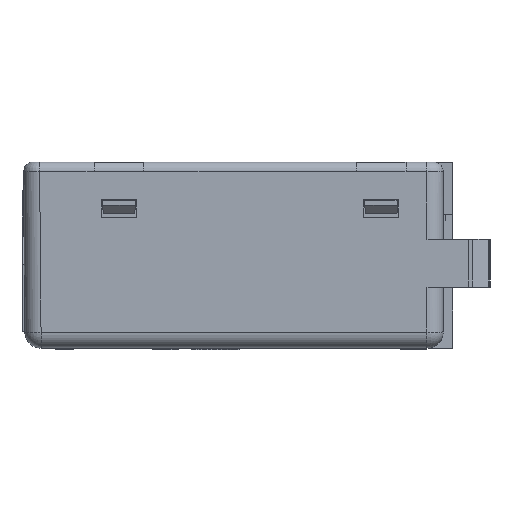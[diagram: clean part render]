
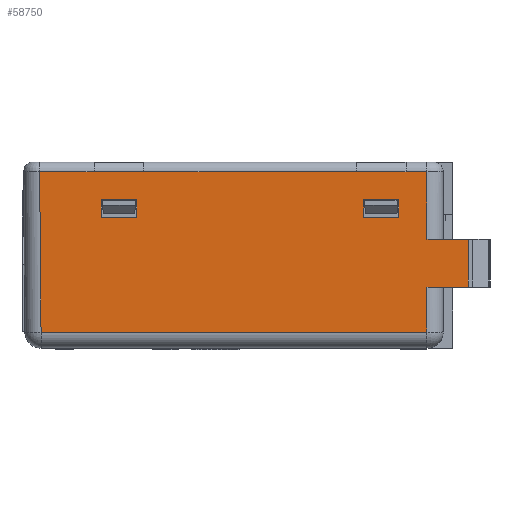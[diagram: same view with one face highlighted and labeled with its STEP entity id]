
A CAD part, left-side view. The second image highlights one B-rep face of the part: STEP entity #58750.
In plain terms, the highlighted planar face has unit normal (-1, 0, -0.009) as drawn and (1, 0, 0.009) by its records, which use the part's own axes.
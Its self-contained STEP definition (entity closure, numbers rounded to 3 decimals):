
#36370=CARTESIAN_POINT('',(23.974,14.835,
-9.35));
#36380=VERTEX_POINT('',#36370);
#36410=CARTESIAN_POINT('',(23.974,0.,
-9.35));
#36420=DIRECTION('',(0.,-1.,0.));
#36430=VECTOR('',#36420,1.);
#36440=LINE('',#36410,#36430);
#36450=CARTESIAN_POINT('',(23.974,11.135,
-9.35));
#36460=VERTEX_POINT('',#36450);
#36470=EDGE_CURVE('',#36380,#36460,#36440,.T.);
#45860=CARTESIAN_POINT('',(22.3,21.3,-12.3));
#45870=DIRECTION('',(0.,0.,-1.));
#45880=DIRECTION('',(-1.,0.,0.));
#45890=AXIS2_PLACEMENT_3D('',#45860,#45870,#45880);
#45900=CIRCLE('',#45890,1.7);
#49750=CARTESIAN_POINT('',(23.974,-12.65,-9.35));
#49760=VERTEX_POINT('',#49750);
#49790=CARTESIAN_POINT('',(23.974,0.,
-9.35));
#49800=DIRECTION('',(0.,-1.,0.));
#49810=VECTOR('',#49800,1.);
#49820=LINE('',#49790,#49810);
#49830=CARTESIAN_POINT('',(23.974,-16.35,-9.35));
#49840=VERTEX_POINT('',#49830);
#49850=EDGE_CURVE('',#49760,#49840,#49820,.T.);
#55730=CARTESIAN_POINT('',(24.,-17.1,-12.3));
#55740=VERTEX_POINT('',#55730);
#56920=CARTESIAN_POINT('',(23.913,-21.,-2.3));
#56930=DIRECTION('',(1.,-0.,0.009));
#56940=DIRECTION('',(0.,1.,0.));
#56950=AXIS2_PLACEMENT_3D('',#56920,#56930,#56940);
#56960=PLANE('',#56950);
#56970=CARTESIAN_POINT('',(24.031,-23.6,-15.8));
#56980=DIRECTION('',(-0.009,0.,1.));
#56990=VECTOR('',#56980,1.);
#57000=LINE('',#56970,#56990);
#57010=CARTESIAN_POINT('',(23.938,-23.6,-5.2));
#57020=VERTEX_POINT('',#57010);
#57030=CARTESIAN_POINT('',(23.894,-23.6,-0.2));
#57040=VERTEX_POINT('',#57030);
#57050=EDGE_CURVE('',#57020,#57040,#57000,.T.);
#57060=ORIENTED_EDGE('',*,*,#57050,.F.);
#57070=CARTESIAN_POINT('',(23.894,0.,
-0.2));
#57080=DIRECTION('',(0.,-1.,0.));
#57090=VECTOR('',#57080,1.);
#57100=LINE('',#57070,#57090);
#57110=CARTESIAN_POINT('',(23.894,-19.3,-0.2));
#57120=VERTEX_POINT('',#57110);
#57130=EDGE_CURVE('',#57120,#57040,#57100,.T.);
#57140=ORIENTED_EDGE('',*,*,#57130,.T.);
#57150=CARTESIAN_POINT('',(24.03,-19.3,-15.785));
#57160=DIRECTION('',(-0.009,0.,1.));
#57170=VECTOR('',#57160,1.);
#57180=LINE('',#57150,#57170);
#57190=CARTESIAN_POINT('',(23.853,-19.3,4.515));
#57200=VERTEX_POINT('',#57190);
#57210=EDGE_CURVE('',#57120,#57200,#57180,.T.);
#57220=ORIENTED_EDGE('',*,*,#57210,.F.);
#57230=CARTESIAN_POINT('',(23.853,0.,
4.515));
#57240=DIRECTION('',(0.,-1.,0.));
#57250=VECTOR('',#57240,1.);
#57260=LINE('',#57230,#57250);
#57270=CARTESIAN_POINT('',(23.853,21.153,
4.515));
#57280=VERTEX_POINT('',#57270);
#57290=EDGE_CURVE('',#57280,#57200,#57260,.T.);
#57300=ORIENTED_EDGE('',*,*,#57290,.T.);
#57310=CARTESIAN_POINT('',(24.03,21.33,
-15.785));
#57320=DIRECTION('',(-0.009,-0.009,
1.));
#57330=VECTOR('',#57320,1.);
#57340=LINE('',#57310,#57330);
#57350=CARTESIAN_POINT('',(24.,21.3,-12.3));
#57360=VERTEX_POINT('',#57350);
#57370=EDGE_CURVE('',#57360,#57280,#57340,.T.);
#57380=ORIENTED_EDGE('',*,*,#57370,.T.);
#57390=CARTESIAN_POINT('',(24.,21.3,-12.3));
#57400=VERTEX_POINT('',#57390);
#57410=EDGE_CURVE('',#57360,#57400,#45900,.T.);
#57420=ORIENTED_EDGE('',*,*,#57410,.F.);
#57430=CARTESIAN_POINT('',(24.,0.,-12.3));
#57440=DIRECTION('',(0.,-1.,0.));
#57450=VECTOR('',#57440,1.);
#57460=LINE('',#57430,#57450);
#57470=CARTESIAN_POINT('',(24.,15.598,-12.3));
#57480=VERTEX_POINT('',#57470);
#57490=EDGE_CURVE('',#57400,#57480,#57460,.T.);
#57500=ORIENTED_EDGE('',*,*,#57490,.F.);
#57510=CARTESIAN_POINT('',(24.,0.,-12.3));
#57520=DIRECTION('',(0.,-1.,0.));
#57530=VECTOR('',#57520,1.);
#57540=LINE('',#57510,#57530);
#57550=CARTESIAN_POINT('',(24.,15.585,-12.3));
#57560=VERTEX_POINT('',#57550);
#57570=EDGE_CURVE('',#57480,#57560,#57540,.T.);
#57580=ORIENTED_EDGE('',*,*,#57570,.F.);
#57590=CARTESIAN_POINT('',(24.,23.87,-12.3));
#57600=DIRECTION('',(0.,1.,0.));
#57610=VECTOR('',#57600,1.);
#57620=LINE('',#57590,#57610);
#57630=CARTESIAN_POINT('',(24.,10.385,-12.3));
#57640=VERTEX_POINT('',#57630);
#57650=EDGE_CURVE('',#57640,#57560,#57620,.T.);
#57660=ORIENTED_EDGE('',*,*,#57650,.T.);
#57670=CARTESIAN_POINT('',(24.,0.,-12.3));
#57680=DIRECTION('',(0.,-1.,0.));
#57690=VECTOR('',#57680,1.);
#57700=LINE('',#57670,#57690);
#57710=CARTESIAN_POINT('',(24.,10.373,-12.3));
#57720=VERTEX_POINT('',#57710);
#57730=EDGE_CURVE('',#57640,#57720,#57700,.T.);
#57740=ORIENTED_EDGE('',*,*,#57730,.F.);
#57750=CARTESIAN_POINT('',(24.,23.1,-12.3));
#57760=DIRECTION('',(0.,1.,0.));
#57770=VECTOR('',#57760,1.);
#57780=LINE('',#57750,#57770);
#57790=CARTESIAN_POINT('',(24.,-11.887,-12.3));
#57800=VERTEX_POINT('',#57790);
#57810=EDGE_CURVE('',#57800,#57720,#57780,.T.);
#57820=ORIENTED_EDGE('',*,*,#57810,.T.);
#57830=CARTESIAN_POINT('',(24.,-11.9,-12.3));
#57840=VERTEX_POINT('',#57830);
#57850=EDGE_CURVE('',#57800,#57840,#57700,.T.);
#57860=ORIENTED_EDGE('',*,*,#57850,.F.);
#57870=CARTESIAN_POINT('',(24.,23.87,-12.3));
#57880=DIRECTION('',(0.,1.,0.));
#57890=VECTOR('',#57880,1.);
#57900=LINE('',#57870,#57890);
#57910=EDGE_CURVE('',#55740,#57840,#57900,.T.);
#57920=ORIENTED_EDGE('',*,*,#57910,.T.);
#57930=CARTESIAN_POINT('',(24.,0.,-12.3));
#57940=DIRECTION('',(0.,-1.,0.));
#57950=VECTOR('',#57940,1.);
#57960=LINE('',#57930,#57950);
#57970=CARTESIAN_POINT('',(24.,-17.113,-12.3));
#57980=VERTEX_POINT('',#57970);
#57990=EDGE_CURVE('',#55740,#57980,#57960,.T.);
#58000=ORIENTED_EDGE('',*,*,#57990,.F.);
#58010=CARTESIAN_POINT('',(24.,0.,-12.3));
#58020=DIRECTION('',(0.,-1.,0.));
#58030=VECTOR('',#58020,1.);
#58040=LINE('',#58010,#58030);
#58050=CARTESIAN_POINT('',(24.,-19.3,-12.3));
#58060=VERTEX_POINT('',#58050);
#58070=EDGE_CURVE('',#57980,#58060,#58040,.T.);
#58080=ORIENTED_EDGE('',*,*,#58070,.F.);
#58090=CARTESIAN_POINT('',(24.03,-19.3,-15.785));
#58100=DIRECTION('',(-0.009,0.,1.));
#58110=VECTOR('',#58100,1.);
#58120=LINE('',#58090,#58110);
#58130=CARTESIAN_POINT('',(23.938,-19.3,-5.2));
#58140=VERTEX_POINT('',#58130);
#58150=EDGE_CURVE('',#58060,#58140,#58120,.T.);
#58160=ORIENTED_EDGE('',*,*,#58150,.F.);
#58170=CARTESIAN_POINT('',(23.938,0.,-5.2));
#58180=DIRECTION('',(0.,-1.,0.));
#58190=VECTOR('',#58180,1.);
#58200=LINE('',#58170,#58190);
#58210=EDGE_CURVE('',#58140,#57020,#58200,.T.);
#58220=ORIENTED_EDGE('',*,*,#58210,.F.);
#58230=EDGE_LOOP('',(#58220,#58160,#58080,#58000,#57920,#57860,#57820,
#57740,#57660,#57580,#57500,#57420,#57380,#57300,#57220,#57140,#57060));
#58240=FACE_OUTER_BOUND('',#58230,.T.);
#58250=ORIENTED_EDGE('',*,*,#49850,.T.);
#58260=CARTESIAN_POINT('',(24.031,-12.65,-15.8));
#58270=DIRECTION('',(0.009,0.,-1.));
#58280=VECTOR('',#58270,1.);
#58290=LINE('',#58260,#58280);
#58300=CARTESIAN_POINT('',(23.958,-12.65,-7.52));
#58310=VERTEX_POINT('',#58300);
#58320=EDGE_CURVE('',#58310,#49760,#58290,.T.);
#58330=ORIENTED_EDGE('',*,*,#58320,.T.);
#58340=CARTESIAN_POINT('',(23.958,0.,-7.52))
;
#58350=DIRECTION('',(0.,-1.,0.));
#58360=VECTOR('',#58350,1.);
#58370=LINE('',#58340,#58360);
#58380=CARTESIAN_POINT('',(23.958,-16.35,-7.52));
#58390=VERTEX_POINT('',#58380);
#58400=EDGE_CURVE('',#58310,#58390,#58370,.T.);
#58410=ORIENTED_EDGE('',*,*,#58400,.F.);
#58420=CARTESIAN_POINT('',(24.031,-16.35,-15.8));
#58430=DIRECTION('',(-0.009,0.,1.));
#58440=VECTOR('',#58430,1.);
#58450=LINE('',#58420,#58440);
#58460=EDGE_CURVE('',#49840,#58390,#58450,.T.);
#58470=ORIENTED_EDGE('',*,*,#58460,.T.);
#58480=EDGE_LOOP('',(#58470,#58410,#58330,#58250));
#58490=FACE_BOUND('',#58480,.T.);
#58500=CARTESIAN_POINT('',(24.031,11.135,-15.8));
#58510=DIRECTION('',(-0.009,0.,1.));
#58520=VECTOR('',#58510,1.);
#58530=LINE('',#58500,#58520);
#58540=CARTESIAN_POINT('',(23.958,11.135,-7.52));
#58550=VERTEX_POINT('',#58540);
#58560=EDGE_CURVE('',#36460,#58550,#58530,.T.);
#58570=ORIENTED_EDGE('',*,*,#58560,.T.);
#58580=ORIENTED_EDGE('',*,*,#36470,.T.);
#58590=CARTESIAN_POINT('',(24.031,14.835,-15.8));
#58600=DIRECTION('',(0.009,0.,-1.));
#58610=VECTOR('',#58600,1.);
#58620=LINE('',#58590,#58610);
#58630=CARTESIAN_POINT('',(23.958,14.835,-7.52));
#58640=VERTEX_POINT('',#58630);
#58650=EDGE_CURVE('',#58640,#36380,#58620,.T.);
#58660=ORIENTED_EDGE('',*,*,#58650,.T.);
#58670=CARTESIAN_POINT('',(23.958,0.,-7.52))
;
#58680=DIRECTION('',(0.,-1.,0.));
#58690=VECTOR('',#58680,1.);
#58700=LINE('',#58670,#58690);
#58710=EDGE_CURVE('',#58640,#58550,#58700,.T.);
#58720=ORIENTED_EDGE('',*,*,#58710,.F.);
#58730=EDGE_LOOP('',(#58720,#58660,#58580,#58570));
#58740=FACE_BOUND('',#58730,.T.);
#58750=ADVANCED_FACE('',(#58240,#58490,#58740),#56960,.T.);
